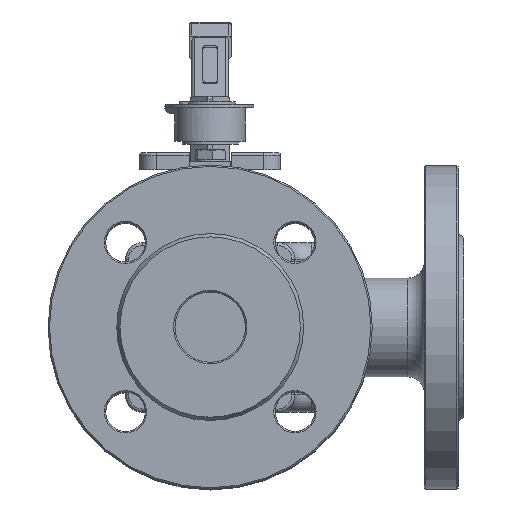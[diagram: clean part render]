
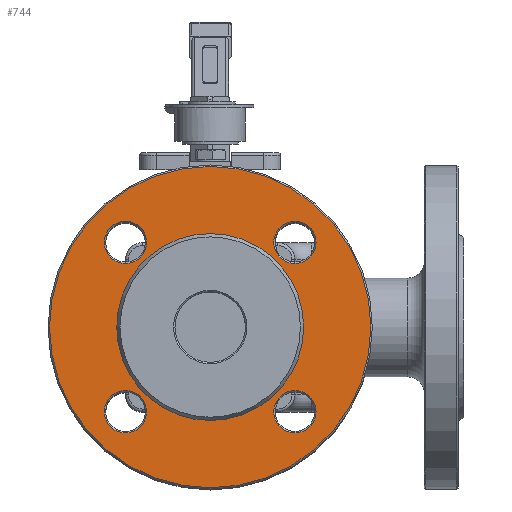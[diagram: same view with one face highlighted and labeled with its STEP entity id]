
A CAD part, top view. The second image highlights one B-rep face of the part: STEP entity #744.
In plain terms, the highlighted planar face has unit normal (0, 0, 1).
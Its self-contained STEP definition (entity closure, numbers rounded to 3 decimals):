
#744=ADVANCED_FACE('',(#6055,#6057,#6059,#6061,#6063,#6065),#6067,.T.);
#6055=FACE_BOUND('',#6056,.T.);
#6056=EDGE_LOOP('',(#14659));
#6057=FACE_BOUND('',#6058,.T.);
#6058=EDGE_LOOP('',(#14660));
#6059=FACE_BOUND('',#6060,.T.);
#6060=EDGE_LOOP('',(#14661));
#6061=FACE_BOUND('',#6062,.T.);
#6062=EDGE_LOOP('',(#14662));
#6063=FACE_BOUND('',#6064,.T.);
#6064=EDGE_LOOP('',(#14663));
#6065=FACE_BOUND('',#6066,.T.);
#6066=EDGE_LOOP('',(#14664));
#6067=PLANE('',#6068);
#6068=AXIS2_PLACEMENT_3D('',#6069,#6070,#6071);
#6069=CARTESIAN_POINT('',(0.,0.,88.));
#6070=DIRECTION('',(0.,0.,1.));
#6071=DIRECTION('',(1.,0.,0.));
#14659=ORIENTED_EDGE('',*,*,#18795,.F.);
#14660=ORIENTED_EDGE('',*,*,#18755,.F.);
#14661=ORIENTED_EDGE('',*,*,#18753,.F.);
#14662=ORIENTED_EDGE('',*,*,#18796,.F.);
#14663=ORIENTED_EDGE('',*,*,#18754,.F.);
#14664=ORIENTED_EDGE('',*,*,#18752,.F.);
#18752=EDGE_CURVE('',#21027,#21027,#21028,.T.);
#18753=EDGE_CURVE('',#21029,#21029,#21030,.T.);
#18754=EDGE_CURVE('',#21031,#21031,#21032,.T.);
#18755=EDGE_CURVE('',#21033,#21033,#21034,.T.);
#18795=EDGE_CURVE('',#21099,#21099,#21100,.T.);
#18796=EDGE_CURVE('',#21101,#21101,#21102,.T.);
#21027=VERTEX_POINT('',#26176);
#21028=CIRCLE('',#26177,7.5);
#21029=VERTEX_POINT('',#26181);
#21030=CIRCLE('',#26182,7.5);
#21031=VERTEX_POINT('',#26186);
#21032=CIRCLE('',#26187,7.5);
#21033=VERTEX_POINT('',#26191);
#21034=CIRCLE('',#26192,7.5);
#21099=VERTEX_POINT('',#26367);
#21100=CIRCLE('',#26368,57.);
#21101=VERTEX_POINT('',#26372);
#21102=CIRCLE('',#26373,33.155);
#26176=CARTESIAN_POINT('',(-22.552,-30.052,88.));
#26177=AXIS2_PLACEMENT_3D('',#26178,#26179,#26180);
#26178=CARTESIAN_POINT('',(-30.052,-30.052,88.));
#26179=DIRECTION('',(0.,0.,1.));
#26180=DIRECTION('',(1.,0.,0.));
#26181=CARTESIAN_POINT('',(-22.552,30.052,88.));
#26182=AXIS2_PLACEMENT_3D('',#26183,#26184,#26185);
#26183=CARTESIAN_POINT('',(-30.052,30.052,88.));
#26184=DIRECTION('',(0.,0.,1.));
#26185=DIRECTION('',(1.,0.,0.));
#26186=CARTESIAN_POINT('',(37.552,30.052,88.));
#26187=AXIS2_PLACEMENT_3D('',#26188,#26189,#26190);
#26188=CARTESIAN_POINT('',(30.052,30.052,88.));
#26189=DIRECTION('',(0.,0.,1.));
#26190=DIRECTION('',(1.,0.,0.));
#26191=CARTESIAN_POINT('',(37.552,-30.052,88.));
#26192=AXIS2_PLACEMENT_3D('',#26193,#26194,#26195);
#26193=CARTESIAN_POINT('',(30.052,-30.052,88.));
#26194=DIRECTION('',(0.,0.,1.));
#26195=DIRECTION('',(1.,0.,0.));
#26367=CARTESIAN_POINT('',(57.,0.,88.));
#26368=AXIS2_PLACEMENT_3D('',#26369,#26370,#26371);
#26369=CARTESIAN_POINT('',(0.,0.,88.));
#26370=DIRECTION('',(0.,0.,-1.));
#26371=DIRECTION('',(1.,0.,0.));
#26372=CARTESIAN_POINT('',(33.155,0.,88.));
#26373=AXIS2_PLACEMENT_3D('',#26374,#26375,#26376);
#26374=CARTESIAN_POINT('',(0.,0.,88.));
#26375=DIRECTION('',(0.,0.,1.));
#26376=DIRECTION('',(1.,0.,0.));
